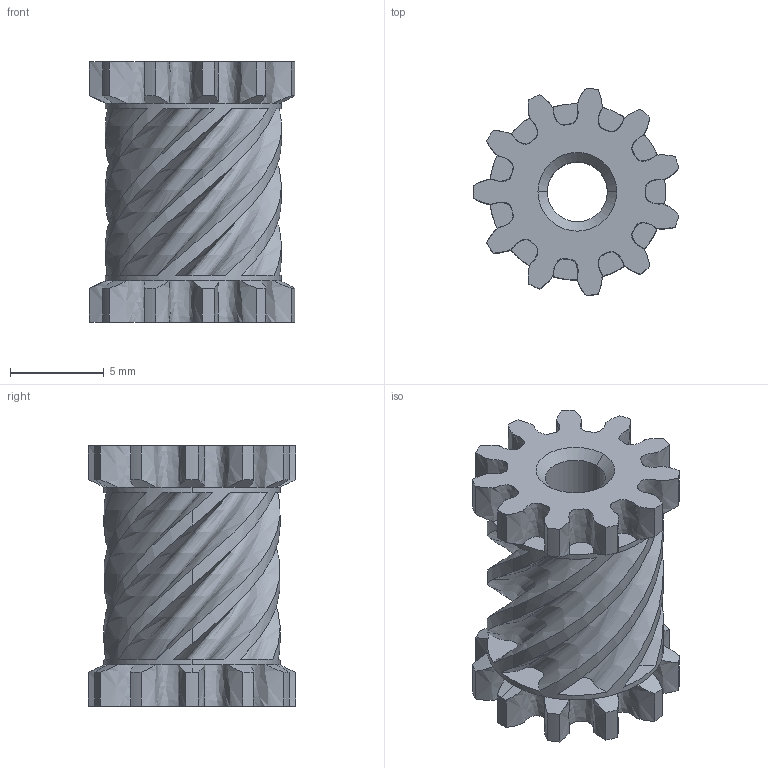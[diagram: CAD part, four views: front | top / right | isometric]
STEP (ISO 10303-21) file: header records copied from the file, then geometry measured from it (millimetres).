
FILE_DESCRIPTION (( 'STEP AP214' ), '1' );
FILE_NAME ('Öåíòðàëüíûé ÄèôÒ - Ñàòåëèò.STEP', '2019-03-23T07:31:08', ( '' ), ( '' ), 'SwSTEP 2.0', 'SolidWorks 2018', '' );
FILE_SCHEMA (( 'AUTOMOTIVE_DESIGN' ));
Length unit declared in the file: millimetre
Products named in the file (1): Öåíòðàëüíûé ÄèôÒ - Ñàòåëèò
Bounding box: 10.97 x 11.07 x 13.9 mm (x, y, z)
Volume: 628.8 mm3; surface area: 1065 mm2
Topology: 1 solids, 1 shells, 123 faces, 314 edges, 193 vertices
Faces by surface type: plane 40, bspline 30, cone 27, cylinder 26
Entity records: 246615 total; most frequent: CARTESIAN_POINT 243917, ORIENTED_EDGE 628, DIRECTION 491, EDGE_CURVE 314, AXIS2_PLACEMENT_3D 215, VERTEX_POINT 193, EDGE_LOOP 125, ADVANCED_FACE 123
